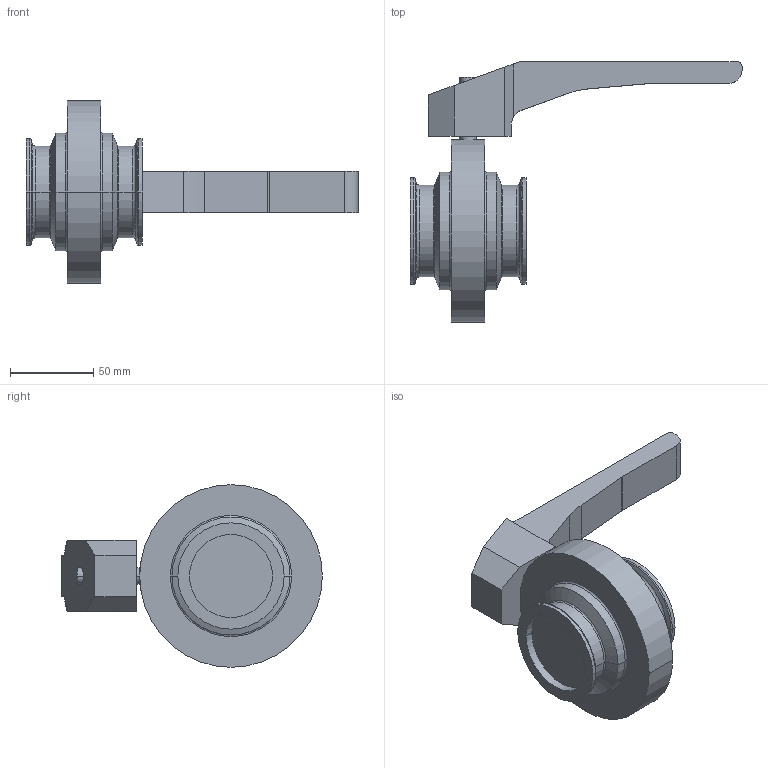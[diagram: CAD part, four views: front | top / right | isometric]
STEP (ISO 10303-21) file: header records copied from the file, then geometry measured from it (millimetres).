
FILE_DESCRIPTION(('OneSpaceDesigner STEP Export'),'2;1');
FILE_NAME('SV1-50-H-12CL.stp','2007-04-19T14:45:26',(''),(''),'OneSpace Designer STEP processor for AP214 (Solid Model)','OneSpace Modeling 15.00 06-Feb-2007 (C) CoCreate Software GmbH','');
FILE_SCHEMA(('AUTOMOTIVE_DESIGN { 1 0 10303 214 1 1 1 1 }'));
Length unit declared in the file: millimetre
Products named in the file (3): SV1-50-H-12CL; Handhebel-SV-40-100; SV1-50-H-12CL-vereint
Assembly tree (2 placements, depth 2):
  SV1-50-H-12CL-vereint
    Handhebel-SV-40-100
    SV1-50-H-12CL
Bounding box: 200 x 157 x 110 mm (x, y, z)
Volume: 450011.3 mm3; surface area: 59737.7 mm2
Topology: 2 solids, 2 shells, 76 faces, 167 edges, 100 vertices
Faces by surface type: cylinder 27, plane 25, torus 16, cone 8
Entity records: 2295 total; most frequent: CARTESIAN_POINT 695, ORIENTED_EDGE 334, DIRECTION 303, EDGE_CURVE 167, AXIS2_PLACEMENT_3D 113, VERTEX_POINT 100, EDGE_LOOP 81, VECTOR 77
